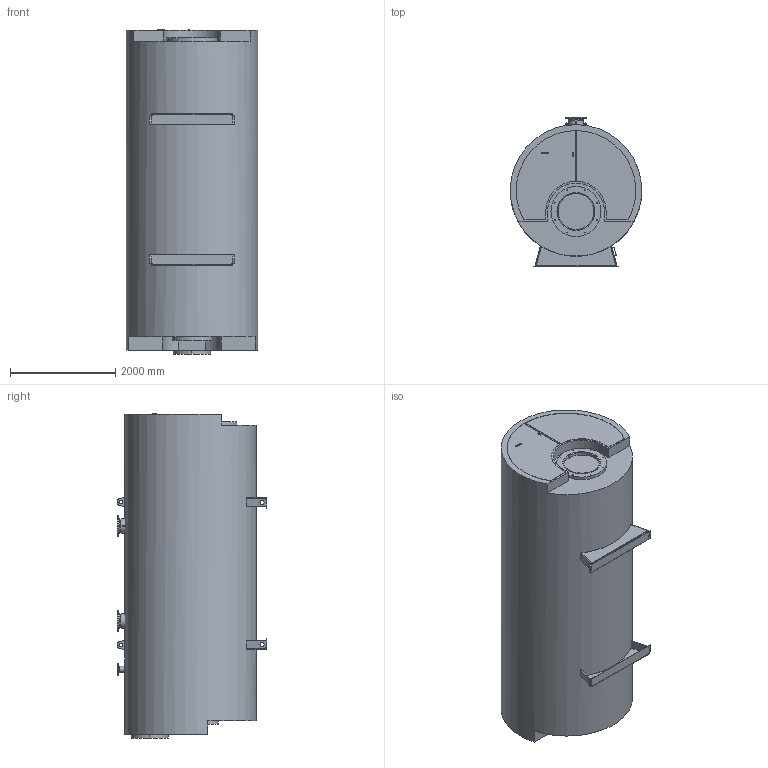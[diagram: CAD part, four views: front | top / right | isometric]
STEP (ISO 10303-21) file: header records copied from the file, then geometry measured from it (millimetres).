
FILE_DESCRIPTION(('TFLEX Exchange Step'),'2;1');
FILE_NAME('M62D007_RD_7550653_H001.stp', '2024-08-07T16:27:33+03:00',('kort'),('Unknown organisation'),'TFLEX Exchange 2024.2','T-FLEX CAD','Unknown authorisation');
FILE_SCHEMA( ('AP242_MANAGED_MODEL_BASED_3D_ENGINEERING_MIM_LF {1 0 10303 442 1 1 4 }') );
Length unit declared in the file: millimetre
Products named in the file (1): 7550653_Grundkessel M62D007_H001
Bounding box: 2498.42 x 2845 x 6164.2 mm (x, y, z)
Volume: 29000550526.6 mm3; surface area: 62746282.9 mm2
Topology: 31 solids, 31 shells, 548 faces, 1422 edges, 971 vertices
Faces by surface type: plane 296, cylinder 150, bspline 86, torus 10, cone 6
Full cylindrical faces by diameter (mm): 2.2 x4, 3.2 x4, 3.3 x4, 4 x4, 6.5 x4, 13 x4, 14 x8, 18 x8, 18.63 x2, 26 x24, 26.9 x2, 70 x2, 80 x4, 103.1 x1, 107.1 x1, 114.3 x1, 158 x1, 161 x1, 220 x1, 249 x2, 260.4 x2, 273 x2, 320 x2, 405 x2, 759.21 x1, 950 x1, 2499 x1
Entity records: 23957 total; most frequent: CARTESIAN_POINT 10075, ORIENTED_EDGE 2844, DIRECTION 2551, EDGE_CURVE 1422, VERTEX_POINT 971, AXIS2_PLACEMENT_3D 878, VECTOR 795, LINE 795
